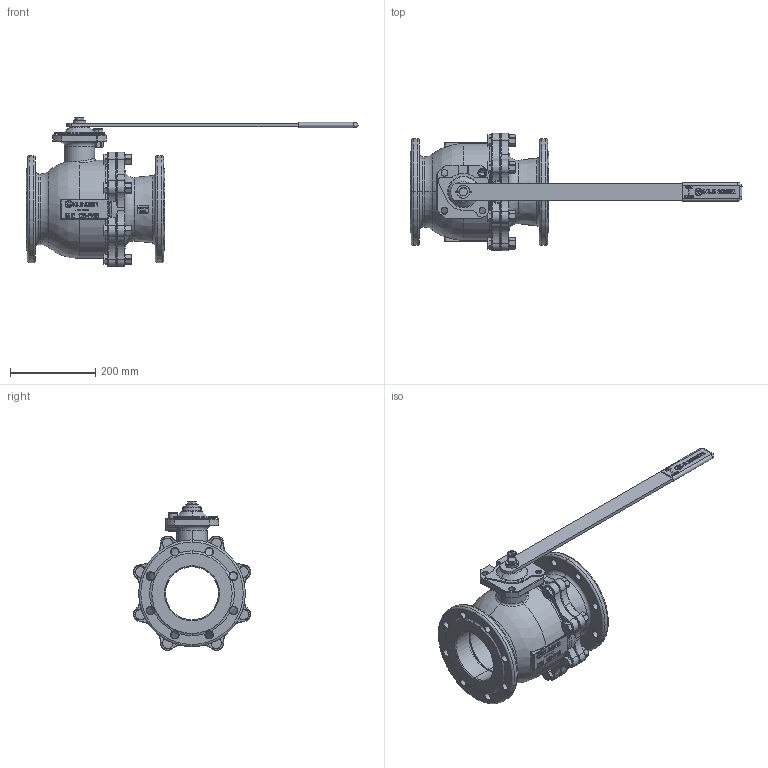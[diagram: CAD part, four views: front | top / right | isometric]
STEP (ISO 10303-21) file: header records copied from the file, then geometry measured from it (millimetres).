
FILE_DESCRIPTION((''),'2;1');
FILE_NAME('KHEFK125VFK125P016PHH','2015-08-10T',('mahrhauserh'),('RAND'),'PRO/ENGINEER BY PARAMETRIC TECHNOLOGY CORPORATION, 2013410','PRO/ENGINEER BY PARAMETRIC TECHNOLOGY CORPORATION, 2013410','');
FILE_SCHEMA(('CONFIG_CONTROL_DESIGN'));
Products named in the file (1): KHEFK125VFK125P016PHH
Bounding box: 777 x 274.21 x 348.54 mm (x, y, z)
Volume: 7427185.7 mm3; surface area: 1034109.4 mm2
Topology: 1 solids, 1 shells, 3305 faces, 8708 edges, 5541 vertices
Faces by surface type: plane 2035, cylinder 463, torus 357, cone 284, bspline 150, sphere 16
Entity records: 128397 total; most frequent: CARTESIAN_POINT 46844, ORIENTED_EDGE 17412, DIRECTION 16485, EDGE_CURVE 8706, VECTOR 5809, LINE 5809, VERTEX_POINT 5541, AXIS2_PLACEMENT_3D 5338
